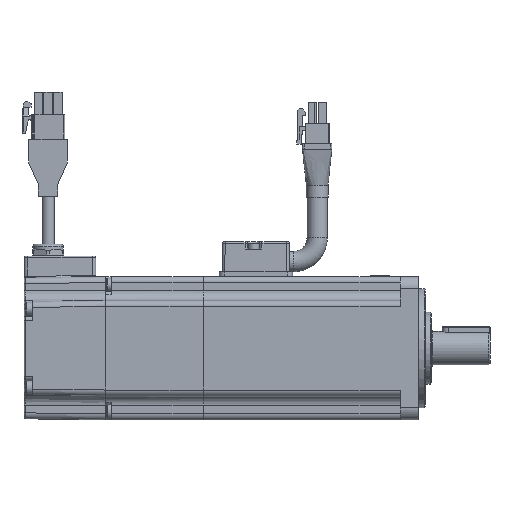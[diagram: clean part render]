
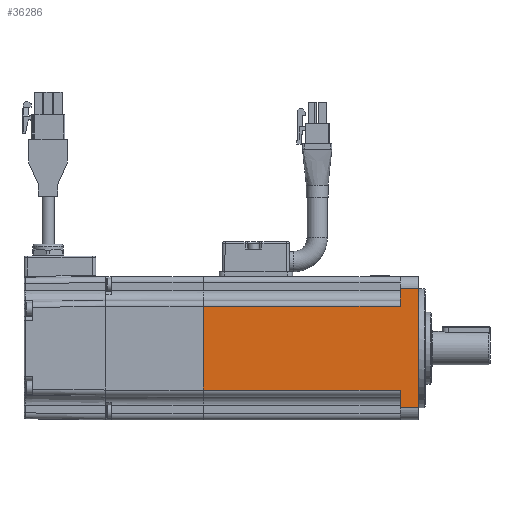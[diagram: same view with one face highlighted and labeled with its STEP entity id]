
A CAD part, left-side view. The second image highlights one B-rep face of the part: STEP entity #36286.
In plain terms, the highlighted planar face has unit normal (-1, 0, 0).
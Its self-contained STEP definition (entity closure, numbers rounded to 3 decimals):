
#509=LINE('',#54706,#3715);
#512=LINE('',#54726,#3718);
#523=LINE('',#54787,#3729);
#545=LINE('',#54840,#3751);
#546=LINE('',#54841,#3752);
#547=LINE('',#54842,#3753);
#548=LINE('',#54844,#3754);
#549=LINE('',#54846,#3755);
#3715=VECTOR('',#42499,1000.);
#3718=VECTOR('',#42520,1000.);
#3729=VECTOR('',#42577,1000.);
#3751=VECTOR('',#42633,1000.);
#3752=VECTOR('',#42634,1000.);
#3753=VECTOR('',#42635,1000.);
#3754=VECTOR('',#42636,1000.);
#3755=VECTOR('',#42637,1000.);
#10155=ORIENTED_EDGE('',*,*,#20004,.T.);
#10156=ORIENTED_EDGE('',*,*,#19939,.T.);
#10157=ORIENTED_EDGE('',*,*,#20005,.T.);
#10158=ORIENTED_EDGE('',*,*,#19947,.F.);
#10159=ORIENTED_EDGE('',*,*,#20006,.T.);
#10160=ORIENTED_EDGE('',*,*,#20007,.T.);
#10161=ORIENTED_EDGE('',*,*,#20008,.T.);
#10162=ORIENTED_EDGE('',*,*,#19975,.F.);
#19939=EDGE_CURVE('',#24882,#24904,#509,.T.);
#19947=EDGE_CURVE('',#24912,#24913,#512,.T.);
#19975=EDGE_CURVE('',#24940,#24941,#523,.T.);
#20004=EDGE_CURVE('',#24940,#24882,#545,.T.);
#20005=EDGE_CURVE('',#24904,#24913,#546,.T.);
#20006=EDGE_CURVE('',#24912,#24954,#547,.T.);
#20007=EDGE_CURVE('',#24954,#24955,#548,.T.);
#20008=EDGE_CURVE('',#24955,#24941,#549,.F.);
#24882=VERTEX_POINT('',#54661);
#24904=VERTEX_POINT('',#54705);
#24912=VERTEX_POINT('',#54725);
#24913=VERTEX_POINT('',#54727);
#24940=VERTEX_POINT('',#54788);
#24941=VERTEX_POINT('',#54789);
#24954=VERTEX_POINT('',#54843);
#24955=VERTEX_POINT('',#54845);
#29522=EDGE_LOOP('',(#10155,#10156,#10157,#10158,#10159,#10160,#10161,#10162));
#32288=FACE_BOUND('',#29522,.T.);
#34917=PLANE('',#38822);
#36286=ADVANCED_FACE('',(#32288),#34917,.T.);
#38822=AXIS2_PLACEMENT_3D('',#54839,#42631,#42632);
#42499=DIRECTION('',(0.,0.,-1.));
#42520=DIRECTION('',(0.,0.,1.));
#42577=DIRECTION('',(0.,0.,1.));
#42631=DIRECTION('',(-1.,0.,0.));
#42632=DIRECTION('',(0.,0.,1.));
#42633=DIRECTION('',(0.,1.,0.));
#42634=DIRECTION('',(0.,-1.,0.));
#42635=DIRECTION('',(0.,-1.,0.));
#42636=DIRECTION('',(0.,0.,1.));
#42637=DIRECTION('',(0.,-1.,0.));
#54661=CARTESIAN_POINT('',(-30.,90.7,17.5));
#54705=CARTESIAN_POINT('',(-30.,90.7,-17.5));
#54706=CARTESIAN_POINT('',(-30.,90.7,30.));
#54725=CARTESIAN_POINT('',(-30.,8.3,-25.));
#54726=CARTESIAN_POINT('',(-30.,8.3,30.));
#54727=CARTESIAN_POINT('',(-30.,8.3,-17.5));
#54787=CARTESIAN_POINT('',(-30.,8.3,30.));
#54788=CARTESIAN_POINT('',(-30.,8.3,17.5));
#54789=CARTESIAN_POINT('',(-30.,8.3,25.));
#54839=CARTESIAN_POINT('',(-30.,170.145,30.));
#54840=CARTESIAN_POINT('',(-30.,170.145,17.5));
#54841=CARTESIAN_POINT('',(-30.,170.145,-17.5));
#54842=CARTESIAN_POINT('',(-30.,170.145,-25.));
#54843=CARTESIAN_POINT('',(-30.,0.7,-25.));
#54844=CARTESIAN_POINT('',(-30.,0.7,30.));
#54845=CARTESIAN_POINT('',(-30.,0.7,25.));
#54846=CARTESIAN_POINT('',(-30.,170.145,25.));
